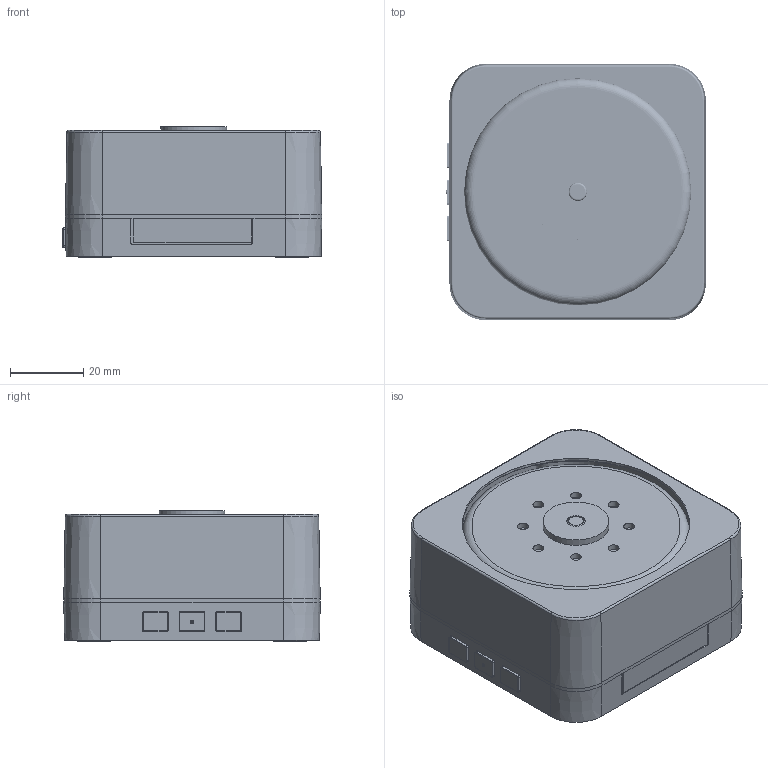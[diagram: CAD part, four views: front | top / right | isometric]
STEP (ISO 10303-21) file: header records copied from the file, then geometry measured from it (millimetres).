
FILE_DESCRIPTION(/* description */ (''),/* implementation_level */ '2;1');
FILE_NAME(/* name */ 'C:/Users/Takashi Tokuda/Desktop/km-1_public_ver1.step',/* time_stamp */ '2017-10-26T12:02:45+09:00',/* author */ ('for21.rakuten@gmail.com'),/* organization */ (''),/* preprocessor_version */ 'ST-DEVELOPER v16.13',/* originating_system */ 'Autodesk Translation Framework v6.5.0.72',/* authorisation */ '');
FILE_SCHEMA (('AUTOMOTIVE_DESIGN { 1 0 10303 214 3 1 1 }'));
Products named in the file (5): km-1; 組立図; motor_base; top_cover; MotorTopCover v34
Assembly tree (4 placements, depth 4):
  km-1
    組立図
      motor_base
      top_cover
        MotorTopCover v34
Bounding box: 70.9 x 70 x 35.6 mm (x, y, z)
Volume: 128517.3 mm3; surface area: 40869.8 mm2
Topology: 2 solids, 8 shells, 990 faces, 2728 edges, 1821 vertices
Faces by surface type: cylinder 579, plane 310, cone 41, torus 31, bspline 29
Full cylindrical faces by diameter (mm): 1.6 x4, 1.623 x83, 1.754 x1, 2 x37, 2.074 x133, 2.2 x1, 2.3 x4, 2.5 x2, 3 x8, 4 x8, 4.1 x4, 4.234 x56, 5 x8, 5.12 x56, 10 x4, 10.5 x4, 18 x2, 51.6 x1, 62 x2
Entity records: 166840 total; most frequent: CARTESIAN_POINT 142786, ORIENTED_EDGE 5456, DIRECTION 4313, EDGE_CURVE 2728, VERTEX_POINT 1821, AXIS2_PLACEMENT_3D 1577, LINE 1159, VECTOR 1159
